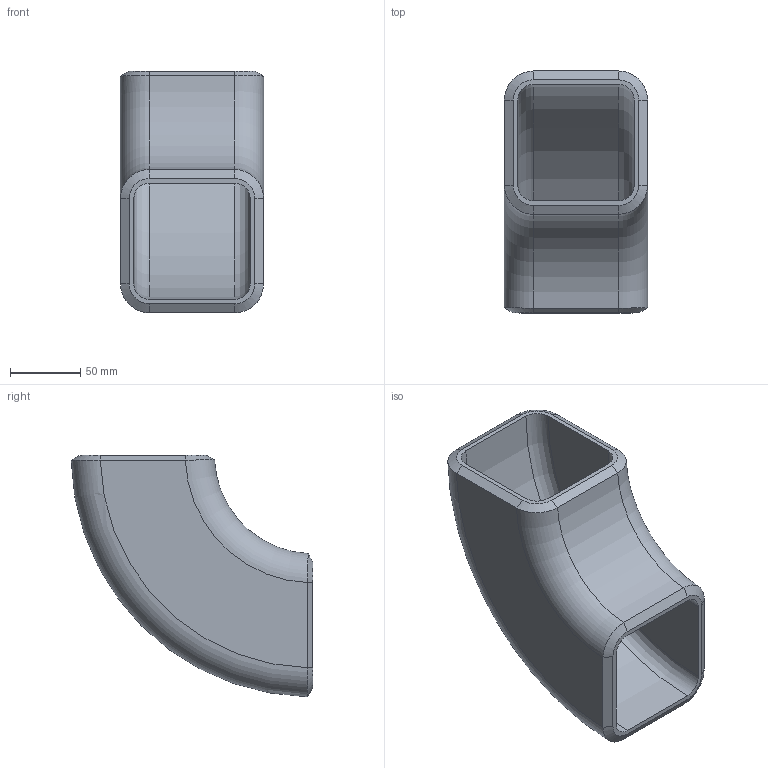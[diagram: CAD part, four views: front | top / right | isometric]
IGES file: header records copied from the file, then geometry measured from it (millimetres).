
Global section: file name: No Iges File Name specified; native system: Autodesk Inventor 2011; preprocessor: AutoDesk Inventor Iges Exporter R2011; author: bamfomg; date: 20110321.073308; units: inch
Bounding box: 101.6 x 171.41 x 171.41 mm (x, y, z)
Volume: 607618 mm3; surface area: 133791.8 mm2
Topology: 1 solids, 1 shells, 34 faces, 80 edges, 48 vertices
Faces by surface type: bspline 16, revolution 6, plane 6, torus 4, cylinder 2
